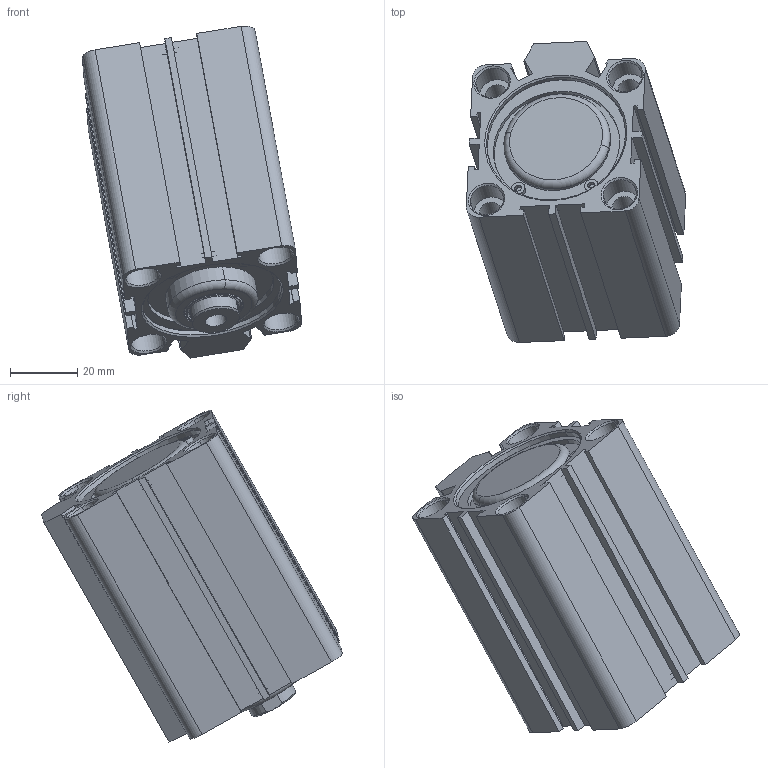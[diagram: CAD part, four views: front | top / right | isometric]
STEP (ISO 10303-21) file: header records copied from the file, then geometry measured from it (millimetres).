
FILE_DESCRIPTION (( 'STEP AP214' ), '1' );
FILE_NAME ('SDA_40_40_WEB.STEP', '2021-01-22T12:14:14', ( 'cagdas' ), ( '' ), 'SwSTEP 2.0', 'SolidWorks 2021', '' );
FILE_SCHEMA (( 'AUTOMOTIVE_DESIGN' ));
Length unit declared in the file: millimetre
Products named in the file (8): SDA40PAPYUZUK; SDA40ARKAKAPAK; SDA40BOGAZKECESI; SDA40ONKAPAK; 16_MIL_WEB; SDA40SEGMAN; SDA_40_40_WEB; SDA_40_BORU_WEB
Assembly tree (8 placements, depth 2):
  SDA_40_40_WEB
    SDA40ARKAKAPAK
    SDA40SEGMAN  x2
    SDA40ONKAPAK
    SDA40PAPYUZUK
    SDA40BOGAZKECESI
    SDA_40_BORU_WEB
    16_MIL_WEB
Bounding box: 65.16 x 89.37 x 98.64 mm (x, y, z)
Volume: 109096.3 mm3; surface area: 56595.3 mm2
Topology: 8 solids, 8 shells, 474 faces, 1175 edges, 758 vertices
Faces by surface type: plane 185, cylinder 128, bspline 85, cone 72, torus 4
Entity records: 19871 total; most frequent: CARTESIAN_POINT 7117, ORIENTED_EDGE 2254, DIRECTION 2025, EDGE_CURVE 1127, VERTEX_POINT 726, AXIS2_PLACEMENT_3D 698, LINE 629, VECTOR 629
